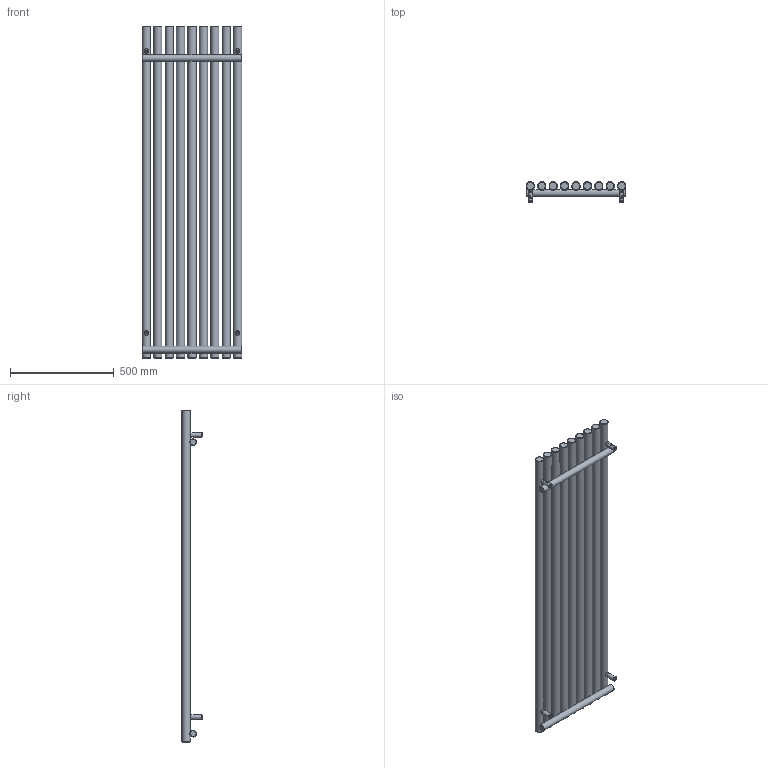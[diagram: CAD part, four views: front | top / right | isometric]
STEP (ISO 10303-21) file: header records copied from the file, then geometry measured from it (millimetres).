
FILE_DESCRIPTION(/* description */ (''),/* implementation_level */ '2;1');
FILE_NAME(/* name */ 'Z:\R\G\P\RGP116 - Grzejniki Geyser\Work\Inventor\Circolo (Rolo V, Rolo H)\ROLO-ROOM\Marketing\Bryły 3D\Zaokrąglone\WLROR160048-ES-CK-(Z).stp',/* time_stamp */ '2024-03-29T15:53:33+01:00',/* author */ ('NowAd'),/* organization */ (''),/* preprocessor_version */ 'ST-DEVELOPER v17.2',/* originating_system */ 'Autodesk Inventor 2019',/* authorisation */ '');
FILE_SCHEMA (('AUTOMOTIVE_DESIGN { 1 0 10303 214 3 1 1 }'));
Length unit declared in the file: millimetre
Products named in the file (3): WLROR160048-ES-CK-(Z); PGROR160048-ES-CK-(K); CK-V-fi40 marketing
Assembly tree (5 placements, depth 2):
  WLROR160048-ES-CK-(Z)
    PGROR160048-ES-CK-(K)
    CK-V-fi40 marketing  x4
Bounding box: 480 x 96.5 x 1600 mm (x, y, z)
Volume: 18907024 mm3; surface area: 1951738.4 mm2
Topology: 5 solids, 5 shells, 345 faces, 859 edges, 574 vertices
Faces by surface type: plane 140, cylinder 77, cone 60, torus 50, bspline 18
Full cylindrical faces by diameter (mm): 4.134 x4, 4.48 x4, 6.4 x4, 10 x4, 12 x4, 15.834 x4, 16 x4, 18.631 x2, 22 x4, 32 x2, 40 x9
Entity records: 8772 total; most frequent: CARTESIAN_POINT 4924, DIRECTION 800, ORIENTED_EDGE 756, EDGE_CURVE 378, AXIS2_PLACEMENT_3D 361, VERTEX_POINT 256, EDGE_LOOP 216, CIRCLE 201
